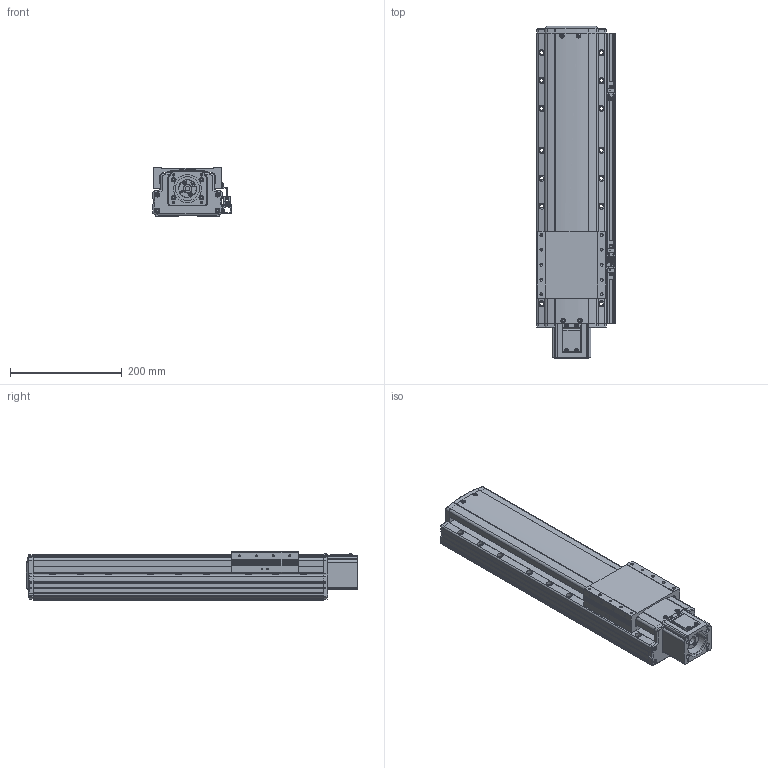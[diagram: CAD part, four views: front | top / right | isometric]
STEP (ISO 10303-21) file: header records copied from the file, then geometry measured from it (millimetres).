
FILE_DESCRIPTION(('STEP AP214'),'1');
FILE_NAME('Z:/Web/3D/PSA125/STP/PSA125-300 (3D)/PSA125ㅁㅁ-300S+3SR.stp','2014-06-22T23:35:19',(' '),(' '),'Spatial InterOp 3D',' ',' ');
FILE_SCHEMA(('automotive_design'));
Length unit declared in the file: millimetre
Products named in the file (53): 스크루 : Round - M4.0 x 10.0; RRCV-PA120; SLIDE; BASE; FRCV-PA120-1(기준 뿔 제거); RR1500; 스크루 : Round - M4.0 x 6.0; 너트 : Square - M10.0 x 220.7419; SSFX-SAN65; CPLCV-SAN65; 스크루 : Round - M3.0 x 6.0; MTHZ-PA120-S60A-3; 스크루 : Socket - M4.0 x 20.0; FRCV; NONE; EE-SX674; SBK-SX674-352; M3.0 x 6.0; SRL-16x17-380L; SGD-PA95; 스크루 : Round - M3.0 x 8.0
Bounding box: 141 x 594.6 x 86 mm (x, y, z)
Volume: 4820429.6 mm3; surface area: 549181.6 mm2
Topology: 53 solids, 87 shells, 3647 faces, 9354 edges, 5924 vertices
Faces by surface type: plane 1818, cylinder 1095, cone 449, torus 174, sphere 70, bspline 41
Entity records: 143746 total; most frequent: CARTESIAN_POINT 23353, DIRECTION 19608, ORIENTED_EDGE 18396, EDGE_CURVE 9198, AXIS2_PLACEMENT_3D 6999, VERTEX_POINT 5924, LINE 5610, VECTOR 5610
